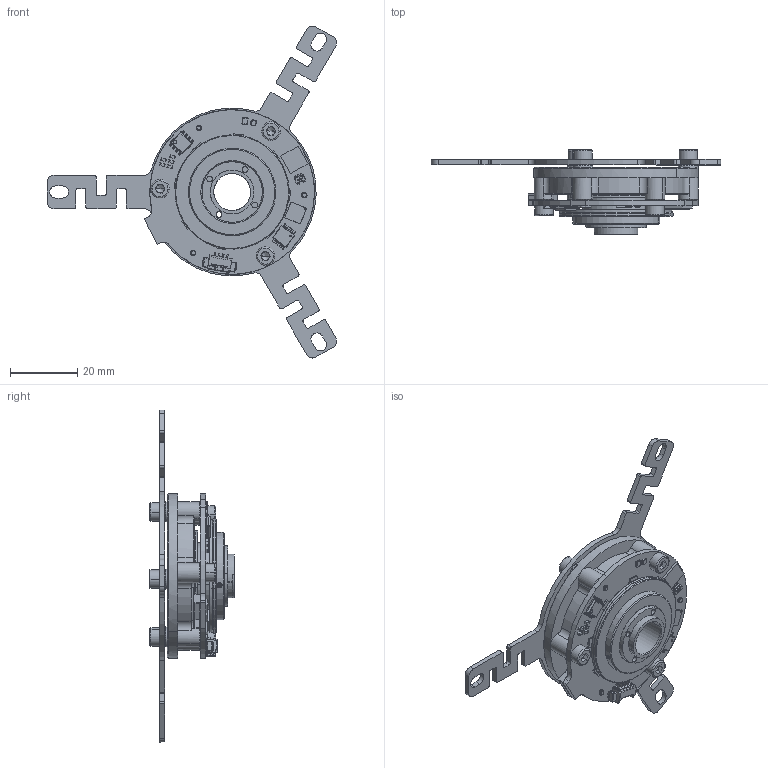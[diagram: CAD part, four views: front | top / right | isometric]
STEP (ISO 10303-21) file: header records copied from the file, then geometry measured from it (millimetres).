
FILE_DESCRIPTION((''),'2;1');
FILE_NAME('25_ASM','2024-12-23T',('Administrator'),(''),'PRO/ENGINEER BY PARAMETRIC TECHNOLOGY CORPORATION, 2014000','PRO/ENGINEER BY PARAMETRIC TECHNOLOGY CORPORATION, 2014000','');
FILE_SCHEMA(('CONFIG_CONTROL_DESIGN'));
Products named in the file (94): 臏殤__1_1; MANIFOLD_SOLI__1; MANIFOLD_SOLID_BREP_66_1___1; MANIFOLD_SOLID_BREP_61__1___1; MANIFOLD_SOLID_BREP_67_1__1___1; MANIFOLD_SOLID_BREP_671__1___1; MANIFOLD_S_1___1; MANIFOLD_SOLID_BREP_6_1__1___1; PRT0002___1; MANIFOLD_SOLID_BREP_1__1___1; MANIFOLD_SOLID_BREP_6__1___1; MANIFOLD_SOLID_BREP1__1___1; MANIFOLD_SOLID_1__1___1; MANIFOLD_SOLID_BREP_1_1_1__1___; MANIFOLD_SOLIEP__1_1__1___1; MANIFOLD_SOLID_BREP__1_1__1___1; MANIFOLD_SOLID_BREP_71_1__1___1; TSSOP-14_ASM_1_ASM_1___ASM_1_ASM; U12-66024_ASM_1_ASM_1__ASM_1_ASM; 6X6X0_75_S_RGB0_1_1_1__1___1; U6-60916_ASM_1_ASM_1____ASM_1_ASM; UFQFPN32_44_RGB0_1_1_1__1___1; U11-61220_ASM_1_ASM_AS___ASM_1_ASM; MANIFOLD_SOLID_BREP___1___1; MANIFOLD_SOLID_BREP__1___1; MANIFOLD_SOLID_BREP__1_1_1__1__; MANIFOLD_SOLID_BRE16_1_1_1__1__; MANIFOLD_SOLID_BRE_1___1; MANIFOLD_SOLID_BREP_3_1___1; MANIFOLD_SOLID_BREP_37_1___1; NST112_RGB8421504_AS__ASM_1_ASM; A1-35377_ASM_1_ASM_1___ASM_1_ASM; SOT23-5-3595_1_1_1__1___1; SOT23-5AND6__1_1_1__1___1; MANIFOLD_SOLID_BREP_1_1___1; MANIFOLD_SOLID_BRE_1_1_1__1___1; MANIFOLD_SOLID_BRE1_1_1__1___1; MANIF_1___1; MANIFOL_1___1; MANIFOLDD_BREP_1___1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
Assembly tree (114 placements, depth 7):
  25_ASM
    臏殤__1_1
    啋ん璃郪璃_AF___1_3__1_ASM
      啋ん璃_AF1__6__3__1___3____1_ASM
        U12-66024_ASM_1_ASM_1__ASM_1_ASM
          TSSOP-14_ASM_1_ASM_1___ASM_1_ASM
            MANIFOLD_SOLI__1
            MANIFOLD_SOLID_BREP_66_1___1
            MANIFOLD_SOLID_BREP_61__1___1
            MANIFOLD_SOLID_BREP_67_1__1___1
            MANIFOLD_SOLID_BREP_671__1___1
            MANIFOLD_S_1___1
            MANIFOLD_SOLID_BREP_6_1__1___1
            PRT0002___1
            MANIFOLD_SOLID_BREP_1__1___1
            MANIFOLD_SOLID_BREP_6__1___1
            MANIFOLD_SOLID_BREP1__1___1
            MANIFOLD_SOLID_1__1___1
            MANIFOLD_SOLID_BREP_1_1_1__1___
            MANIFOLD_SOLIEP__1_1__1___1
            MANIFOLD_SOLID_BREP__1_1__1___1
            MANIFOLD_SOLID_BREP_71_1__1___1
        U6-60916_ASM_1_ASM_1____ASM_1_ASM
          6X6X0_75_S_RGB0_1_1_1__1___1
        U11-61220_ASM_1_ASM_AS___ASM_1_ASM
          UFQFPN32_44_RGB0_1_1_1__1___1
        A1-35377_ASM_1_ASM_1___ASM_1_ASM
          NST112_RGB8421504_AS__ASM_1_ASM
            MANIFOLD_SOLID_BREP___1___1
            MANIFOLD_SOLID_BREP__1___1
            MANIFOLD_SOLID_BREP__1_1_1__1__
            MANIFOLD_SOLID_BRE16_1_1_1__1__
            MANIFOLD_SOLID_BRE_1___1
            MANIFOLD_SOLID_BREP_3_1___1
            MANIFOLD_SOLID_BREP_37_1___1
        U5-3544_ASM_1_ASM_1_A__ASM_1_ASM
          ASM0001___ASM_1_ASM
            SOT23-5-3595_1_1_1__1___1
            SOT23-5AND6__1_1_1__1___1  x5
            LOGO_0_15_ASM_1_ASM__ASM_1_ASM
              MANIFOLD_SOLID_BREP_1_1___1
              MANIFOLD_SOLID_BRE_1_1_1__1___1
              MANIFOLD_SOLID_BRE1_1_1__1___1
              MANIF_1___1
              MANIFOL_1___1
              MANIFOLDD_BREP_1___1
              MANIFOLD_1___1
              MANIFOLD_SOLIDP_1_1_1__1___1
              MANIFOLD_SO_BREP_1__1___1
              MANIFOLD_SOLID_BREP2_1_1_1__1__
              MANIFOLD_SOLID_BREP_14_1___1
              MANIFOL55__1
              MANIFOLD_SOLID_BRE4_1___1
              MANIFOLD_SOLID_BRE5_1___1
        X1-31861_ASM_1_ASM_1___ASM_1_ASM
          OSCCC200X160X45_ASM__ASM_1___AS_ASM
            MANIFOLD_SOLID_BRE-_1___1
            MANIFOLD_SOLID_BREP-_1___1
        R17-55906_ASM_1_ASM_1__1  x7
        C18-94537_ASM_1_ASM_1__ASM_1_ASM  x5
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Bounding box: 86.1 x 25.2 x 98.8 mm (x, y, z)
Volume: 18831.4 mm3; surface area: 22258.4 mm2
Topology: 92 solids, 112 shells, 3960 faces, 10165 edges, 6418 vertices
Faces by surface type: plane 2328, cylinder 1039, sphere 197, torus 122, cone 111, extrusion 104, bspline 59
Entity records: 143285 total; most frequent: CARTESIAN_POINT 38002, ORIENTED_EDGE 17562, DIRECTION 16968, EDGE_CURVE 8787, AXIS2_PLACEMENT_3D 5764, VERTEX_POINT 5741, VECTOR 5440, LINE 5336
